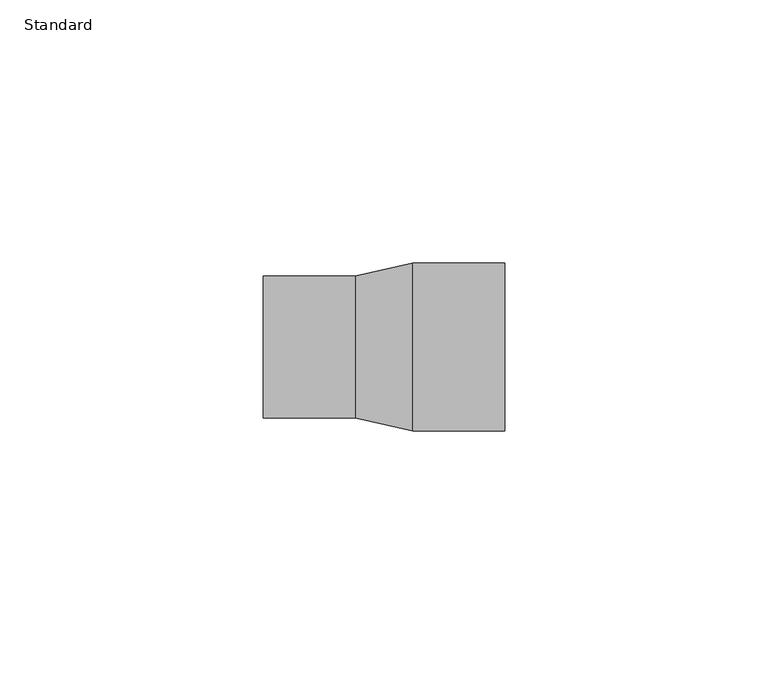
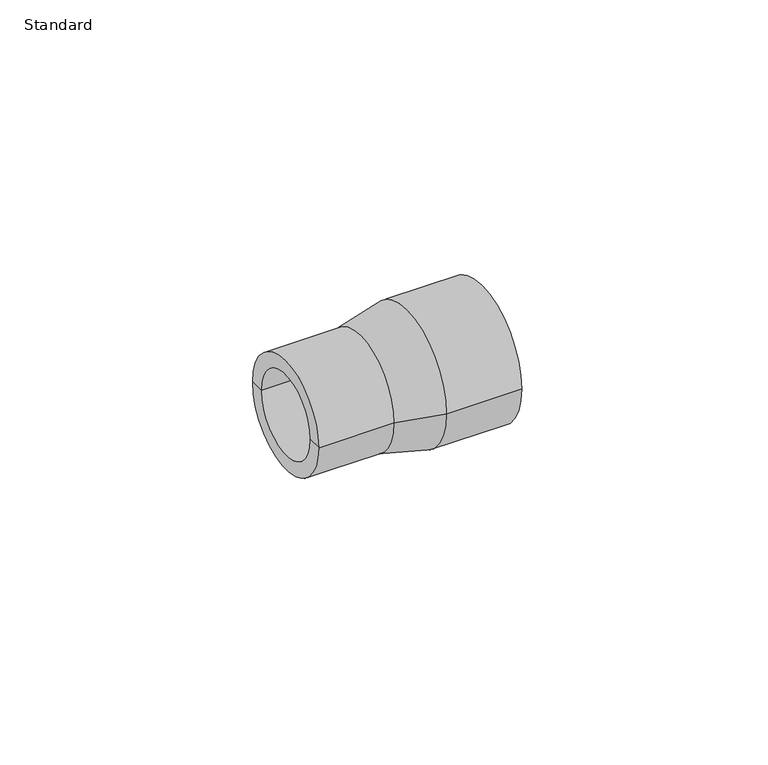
"""IFC4 building model written with IfcOpenShell, lengths in millimetres: pipe fitting geometry, Durapipe_PipeFitting_PVC_Reducers : Standard."""

from ifc_helpers import new_model, si_unit, frame, origin, place, context, project, spatial, polyline, circle_curve, source, transform, mapped, element, save
from ifc_brep_helpers import plane_surface, cylinder_surface, revolved_surface, advanced_brep


def standard_c2af7960(model_context):
    return source(origin(), model_context, "Body", "AdvancedBrep", [
        advanced_brep(
        [(-23.0, -13.5, 0.0), (-23.0, 13.5, 0.0), (-5.5, 13.5, 0.0), (-5.5, -13.5, 0.0), (-23.0, -10.0, 0.0), (-23.0, 10.0, 0.0), (23.0, -16.0, 0.0), (23.0, 16.0, 0.0), (23.0, 12.5, 0.0), (23.0, -12.5, 0.0), (5.5, -16.0, 0.0), (5.5, 16.0, 0.0), (-5.5, -10.0, 0.0), (-5.5, 10.0, 0.0), (-5.5, 0.0, 0.0), (5.5, -12.5, 0.0), (5.5, 12.5, 0.0), (5.5, 0.0, 0.0)],
        [
            (0, 1, circle_curve(frame((-23.0, 0.0, 0.0), z_axis=(1.0, 0.0, 0.0), x_axis=(0.0, 1.0, 0.0)), 13.5)),
            (1, 2),
            (2, 3, circle_curve(frame((-5.5, 0.0, 0.0), z_axis=(-1.0, 0.0, 0.0), x_axis=(0.0, 1.0, 0.0)), 13.5)),
            (3, 0),
            (1, 0, circle_curve(frame((-23.0, 0.0, 0.0), z_axis=(1.0, 0.0, 0.0), x_axis=(0.0, 1.0, 0.0)), 13.5)),
            (3, 2, circle_curve(frame((-5.5, 0.0, 0.0), z_axis=(-1.0, 0.0, 0.0), x_axis=(0.0, 1.0, 0.0)), 13.5)),
            (4, 5, circle_curve(frame((-23.0, 0.0, 0.0), z_axis=(1.0, 0.0, 0.0), x_axis=(0.0, 1.0, 0.0)), 10.0)),
            (5, 1),
            (0, 4),
            (5, 4, circle_curve(frame((-23.0, 0.0, 0.0), z_axis=(1.0, 0.0, 0.0), x_axis=(0.0, 1.0, 0.0)), 10.0)),
            (6, 7, circle_curve(frame((23.0, 0.0, 0.0), z_axis=(1.0, 0.0, 0.0), x_axis=(0.0, 1.0, 0.0)), 16.0)),
            (7, 8),
            (8, 9, circle_curve(frame((23.0, 0.0, 0.0), z_axis=(-1.0, 0.0, 0.0), x_axis=(0.0, 1.0, 0.0)), 12.5)),
            (9, 6),
            (7, 6, circle_curve(frame((23.0, 0.0, 0.0), z_axis=(1.0, 0.0, 0.0), x_axis=(0.0, 1.0, 0.0)), 16.0)),
            (9, 8, circle_curve(frame((23.0, 0.0, 0.0), z_axis=(-1.0, 0.0, 0.0), x_axis=(0.0, 1.0, 0.0)), 12.5)),
            (10, 11, circle_curve(frame((5.5, 0.0, 0.0), z_axis=(1.0, 0.0, 0.0), x_axis=(0.0, 1.0, 0.0)), 16.0)),
            (11, 7),
            (6, 10),
            (11, 10, circle_curve(frame((5.5, 0.0, 0.0), z_axis=(1.0, 0.0, 0.0), x_axis=(0.0, 1.0, 0.0)), 16.0)),
            (2, 11),
            (10, 3),
            (12, 13, circle_curve(frame((-5.5, 0.0, 0.0), z_axis=(1.0, 0.0, 0.0), x_axis=(0.0, 1.0, 0.0)), 10.0)),
            (13, 5),
            (4, 12),
            (13, 12, circle_curve(frame((-5.5, 0.0, 0.0), z_axis=(1.0, 0.0, 0.0), x_axis=(0.0, 1.0, 0.0)), 10.0)),
            (14, 13),
            (12, 14),
            (15, 16, circle_curve(frame((5.5, 0.0, 0.0), z_axis=(1.0, 0.0, 0.0), x_axis=(0.0, 1.0, 0.0)), 12.5)),
            (16, 17),
            (17, 15),
            (16, 15, circle_curve(frame((5.5, 0.0, 0.0), z_axis=(1.0, 0.0, 0.0), x_axis=(0.0, 1.0, 0.0)), 12.5)),
            (8, 16),
            (15, 9),
        ],
        [
            cylinder_surface(frame((-23.0, 0.0, 0.0), z_axis=(-1.0, 0.0, 0.0), x_axis=(0.0, 1.0, 0.0)), 13.5),
            plane_surface(frame((-23.0, 0.0, 0.0), z_axis=(-1.0, 0.0, 0.0), x_axis=(0.0, 1.0, 0.0))),
            plane_surface(frame((23.0, 0.0, 0.0), z_axis=(1.0, 0.0, 0.0), x_axis=(0.0, 1.0, 0.0))),
            cylinder_surface(frame((-23.0, 0.0, 0.0), z_axis=(-1.0, 0.0, 0.0), x_axis=(0.0, 1.0, 0.0)), 16.0),
            revolved_surface(polyline([(5.5, 16.0, 0.0), (-5.5, 13.5, 0.0)]), (-23.0, 0.0, 0.0), (-1.0, 0.0, 0.0)),
            revolved_surface(polyline([(-23.0, 10.0, 0.0), (-5.5, 10.0, 0.0)]), (-23.0, 0.0, 0.0), (-1.0, 0.0, 0.0)),
            plane_surface(frame((-5.5, 0.0, 0.0), z_axis=(-1.0, 0.0, 0.0), x_axis=(0.0, 1.0, 0.0))),
            plane_surface(frame((5.5, 0.0, 0.0), z_axis=(1.0, 0.0, 0.0), x_axis=(0.0, 1.0, 0.0))),
            revolved_surface(polyline([(5.5, 12.5, 0.0), (23.0, 12.5, 0.0)]), (-23.0, 0.0, 0.0), (-1.0, 0.0, 0.0)),
        ],
        [
            (0, [[1, 2, 3, 4]]),
            (0, [[5, -4, 6, -2]]),
            (1, [[7, 8, -1, 9]]),
            (1, [[10, -9, -5, -8]]),
            (2, [[11, 12, 13, 14]]),
            (2, [[15, -14, 16, -12]]),
            (3, [[17, 18, -11, 19]]),
            (3, [[20, -19, -15, -18]]),
            (4, [[-3, 21, -17, 22]]),
            (4, [[-6, -22, -20, -21]]),
            (5, [[23, 24, -7, 25]]),
            (5, [[26, -25, -10, -24]]),
            (6, [[27, -23, 28]]),
            (6, [[-28, -26, -27]]),
            (7, [[29, 30, 31]]),
            (7, [[32, -31, -30]]),
            (8, [[-13, 33, -29, 34]]),
            (8, [[-16, -34, -32, -33]]),
        ],
    ),
    ])


if __name__ == "__main__":
    model = new_model("IFC4")
    model_context = context("Model", 3, world=origin())
    ifc_project = project(units=[si_unit("LENGTHUNIT", "METRE", prefix="MILLI")], contexts=[model_context])
    site = spatial("IfcSite", under=ifc_project)
    building = spatial("IfcBuilding", under=site)
    placement = place(None, origin())
    standard_shape = standard_c2af7960(model_context)
    element("IfcPipeFitting", 1, ObjectType="Durapipe_PipeFitting_PVC_Reducers : Standard", at=placement, inside=building, context=model_context, shape_type="MappedRepresentation", body=[
        mapped(standard_shape, transform((0.0, 0.0, 0.0), x_axis=(1.0, 0.0, 0.0), y_axis=(0.0, 1.0, 0.0), z_axis=(0.0, 0.0, 1.0))),
    ])
    save(model, "model.ifc")
